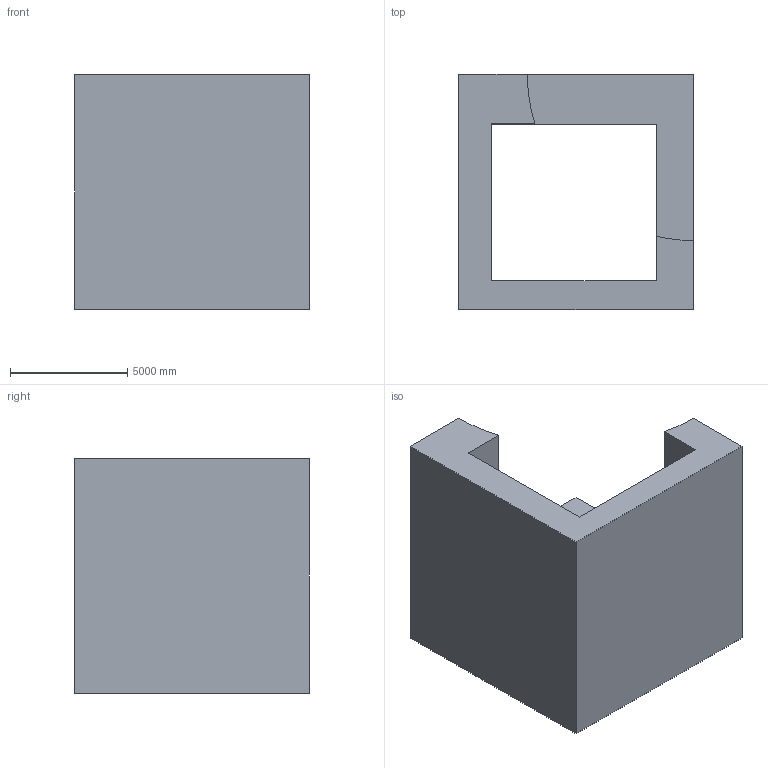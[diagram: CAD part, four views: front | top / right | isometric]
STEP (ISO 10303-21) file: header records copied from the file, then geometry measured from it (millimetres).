
FILE_DESCRIPTION (( 'STEP AP203' ), '1' );
FILE_NAME ('0.STEP', '2022-07-28T13:22:31', ( 'user' ), ( '' ), 'SwSTEP 2.0', 'SolidWorks 2021', '' );
FILE_SCHEMA (( 'CONFIG_CONTROL_DESIGN' ));
Length unit declared in the file: centimetre
Products named in the file (1): 0
Bounding box: 10000 x 10000 x 10000 mm (x, y, z)
Volume: 358080405219.6 mm3; surface area: 623778022 mm2
Topology: 1 solids, 1 shells, 13 faces, 36 edges, 24 vertices
Faces by surface type: plane 11, cylinder 2
Entity records: 495 total; most frequent: CARTESIAN_POINT 74, ORIENTED_EDGE 72, DIRECTION 68, EDGE_CURVE 36, LINE 32, VECTOR 32, VERTEX_POINT 24, AXIS2_PLACEMENT_3D 18
